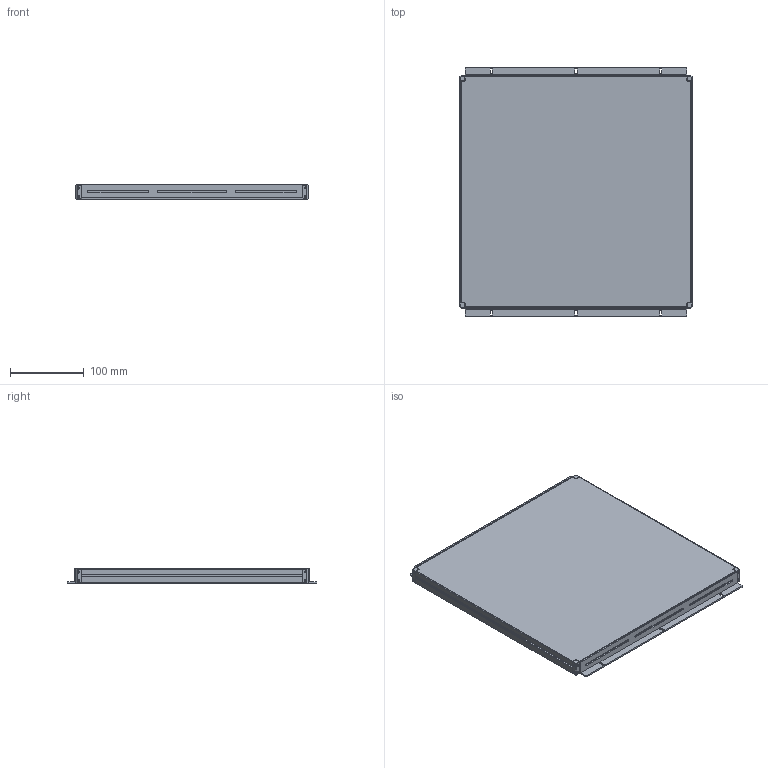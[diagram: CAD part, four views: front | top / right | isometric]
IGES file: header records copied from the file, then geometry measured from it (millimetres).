
Start section: SolidWorks IGES file using analytic representation for surfaces
Global section: file name: E:\SynologyDrive\新款图纸\非标定制\背光\F300300\ED\F300300.IGS; native system: SolidWorks 2020; preprocessor: SolidWorks 2020; author: Administrator; date: 210324.095115; units: millimetre
Bounding box: 315 x 339 x 20.1 mm (x, y, z)
Surface area: 532396.7 mm2 (no closed solid volume)
Topology: 0 solids, 0 shells, 502 faces, 6748 edges, 6748 vertices
Faces by surface type: bspline 284, revolution 218
